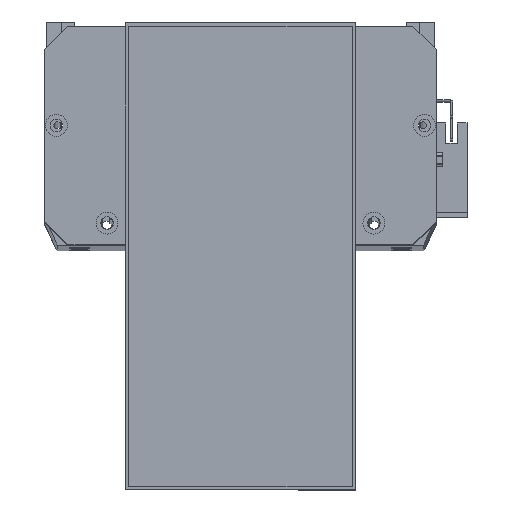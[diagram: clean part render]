
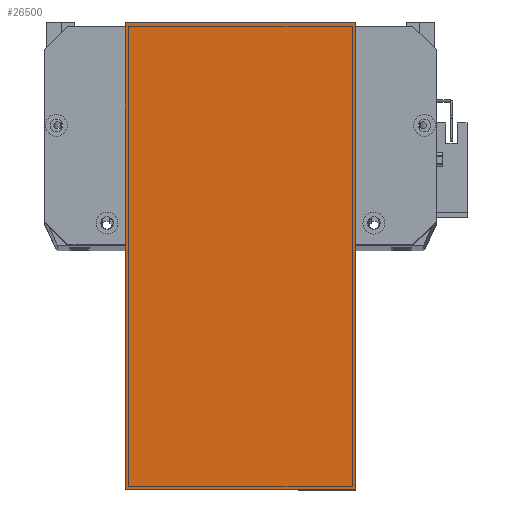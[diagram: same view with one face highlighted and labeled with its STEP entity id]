
A CAD part, top view. The second image highlights one B-rep face of the part: STEP entity #26500.
In plain terms, the highlighted planar face has unit normal (0, 0, 1) as drawn and (0, 0, -1) by its records, which use the part's own axes.
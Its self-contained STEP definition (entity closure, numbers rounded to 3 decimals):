
#2781 = CARTESIAN_POINT ( 'NONE',  ( 203., 19.5, 0. ) ) ;
#2960 = VERTEX_POINT ( 'NONE', #24954 ) ;
#4639 = DIRECTION ( 'NONE',  ( 0., 1., 0. ) ) ;
#5633 = FACE_OUTER_BOUND ( 'NONE', #25125, .T. ) ;
#6718 = LINE ( 'NONE', #25988, #18968 ) ;
#7291 = ORIENTED_EDGE ( 'NONE', *, *, #15079, .T. ) ;
#8239 = DIRECTION ( 'NONE',  ( 1., 0., 0. ) ) ;
#8392 = CARTESIAN_POINT ( 'NONE',  ( -12., 119.5, 0. ) ) ;
#9160 = ORIENTED_EDGE ( 'NONE', *, *, #14478, .F. ) ;
#10742 = LINE ( 'NONE', #13778, #16098 ) ;
#11541 = VERTEX_POINT ( 'NONE', #13564 ) ;
#11604 = LINE ( 'NONE', #21938, #14124 ) ;
#11750 = PLANE ( 'NONE',  #14852 ) ;
#12262 = EDGE_CURVE ( 'NONE', #11541, #2960, #6718, .T. ) ;
#12651 = VECTOR ( 'NONE', #22097, 1000. ) ;
#13564 = CARTESIAN_POINT ( 'NONE',  ( 0., 119.5, 0. ) ) ;
#13778 = CARTESIAN_POINT ( 'NONE',  ( 203., 0., 0. ) ) ;
#14058 = DIRECTION ( 'NONE',  ( -1., 0., 0. ) ) ;
#14124 = VECTOR ( 'NONE', #8239, 1000. ) ;
#14478 = EDGE_CURVE ( 'NONE', #2960, #19801, #11604, .T. ) ;
#14852 = AXIS2_PLACEMENT_3D ( 'NONE', #18590, #27898, #14058 ) ;
#15079 = EDGE_CURVE ( 'NONE', #11541, #23448, #24940, .T. ) ;
#16098 = VECTOR ( 'NONE', #4639, 1000. ) ;
#18590 = CARTESIAN_POINT ( 'NONE',  ( 0., 0., 0. ) ) ;
#18968 = VECTOR ( 'NONE', #18998, 1000. ) ;
#18998 = DIRECTION ( 'NONE',  ( 0., -1., 0. ) ) ;
#19801 = VERTEX_POINT ( 'NONE', #2781 ) ;
#19934 = CARTESIAN_POINT ( 'NONE',  ( 203., 119.5, 0. ) ) ;
#21664 = ORIENTED_EDGE ( 'NONE', *, *, #24932, .F. ) ;
#21938 = CARTESIAN_POINT ( 'NONE',  ( -12., 19.5, 0. ) ) ;
#22097 = DIRECTION ( 'NONE',  ( 1., 0., 0. ) ) ;
#23220 = ORIENTED_EDGE ( 'NONE', *, *, #12262, .F. ) ;
#23448 = VERTEX_POINT ( 'NONE', #19934 ) ;
#24932 = EDGE_CURVE ( 'NONE', #19801, #23448, #10742, .T. ) ;
#24940 = LINE ( 'NONE', #8392, #12651 ) ;
#24954 = CARTESIAN_POINT ( 'NONE',  ( 0., 19.5, 0. ) ) ;
#25125 = EDGE_LOOP ( 'NONE', ( #9160, #23220, #7291, #21664 ) ) ;
#25988 = CARTESIAN_POINT ( 'NONE',  ( 0., 0., 0. ) ) ;
#26500 = ADVANCED_FACE ( 'NONE', ( #5633 ), #11750, .T. ) ;
#27898 = DIRECTION ( 'NONE',  ( 0., 0., -1. ) ) ;
